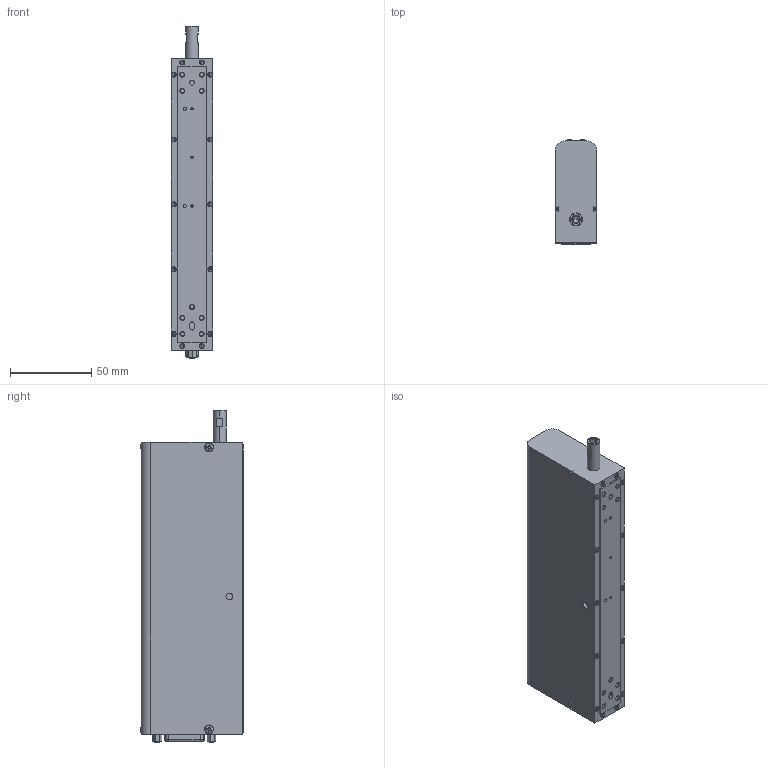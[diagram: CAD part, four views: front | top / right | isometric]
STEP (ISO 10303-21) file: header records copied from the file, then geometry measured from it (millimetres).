
FILE_DESCRIPTION (( 'STEP AP203' ), '1' );
FILE_NAME ('LDL25C-025-YY-6F.STEP', '2021-08-31T14:12:35', ( '' ), ( '' ), 'SwSTEP 2.0', 'SolidWorks 2020', '' );
FILE_SCHEMA (( 'CONFIG_CONTROL_DESIGN' ));
Length unit declared in the file: millimetre
Products named in the file (1): LDL25C-025-YY-6F
Bounding box: 25.86 x 64.1 x 204.76 mm (x, y, z)
Volume: 287102.8 mm3; surface area: 38076.4 mm2
Topology: 1 solids, 33 shells, 2224 faces, 6156 edges, 4023 vertices
Faces by surface type: plane 600, cone 541, bspline 430, cylinder 377, torus 268, sphere 8
Entity records: 91192 total; most frequent: CARTESIAN_POINT 39616, ORIENTED_EDGE 12268, DIRECTION 8695, EDGE_CURVE 6134, VERTEX_POINT 4023, AXIS2_PLACEMENT_3D 3504, B_SPLINE_CURVE_WITH_KNOTS 2652, EDGE_LOOP 2423
